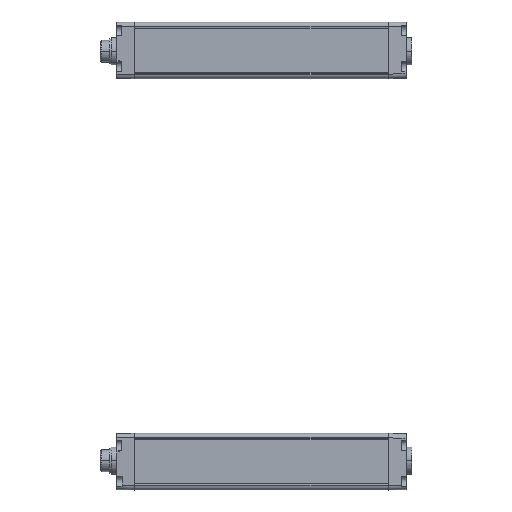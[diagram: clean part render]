
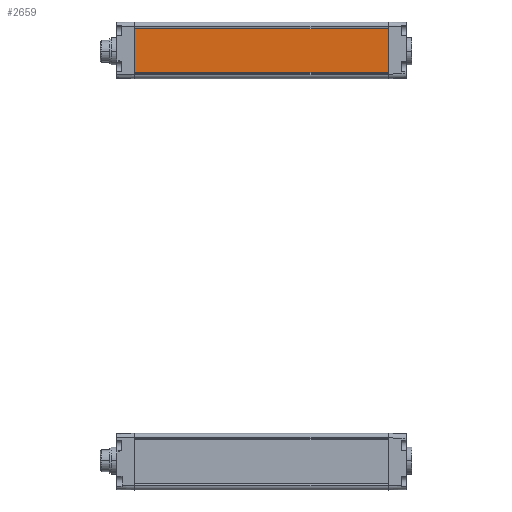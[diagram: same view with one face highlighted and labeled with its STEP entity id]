
A CAD part, front view. The second image highlights one B-rep face of the part: STEP entity #2659.
In plain terms, the highlighted planar face has unit normal (0, -1, 0).
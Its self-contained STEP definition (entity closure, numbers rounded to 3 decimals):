
#154=DIRECTION('',(0.,0.,-1.));
#155=VECTOR('',#154,24.);
#156=CARTESIAN_POINT('',(0.,-15.15,12.));
#157=LINE('',#156,#155);
#412=DIRECTION('',(0.,0.,-1.));
#413=VECTOR('',#412,24.);
#414=CARTESIAN_POINT('',(140.,-15.15,12.));
#415=LINE('',#414,#413);
#880=DIRECTION('',(1.,0.,0.));
#881=VECTOR('',#880,140.);
#882=CARTESIAN_POINT('',(0.,-15.15,12.));
#883=LINE('',#882,#881);
#884=DIRECTION('',(1.,0.,0.));
#885=VECTOR('',#884,140.);
#886=CARTESIAN_POINT('',(0.,-15.15,-12.));
#887=LINE('',#886,#885);
#1298=CARTESIAN_POINT('',(0.,-15.15,12.));
#1299=CARTESIAN_POINT('',(140.,-15.15,12.));
#1300=VERTEX_POINT('',#1298);
#1301=VERTEX_POINT('',#1299);
#1310=CARTESIAN_POINT('',(0.,-15.15,-12.));
#1311=CARTESIAN_POINT('',(140.,-15.15,-12.));
#1312=VERTEX_POINT('',#1310);
#1313=VERTEX_POINT('',#1311);
#2646=CARTESIAN_POINT('',(0.,-15.15,15.65));
#2647=DIRECTION('',(0.,-1.,0.));
#2648=DIRECTION('',(0.,0.,-1.));
#2649=AXIS2_PLACEMENT_3D('',#2646,#2647,#2648);
#2650=PLANE('',#2649);
#2652=ORIENTED_EDGE('',*,*,#2651,.T.);
#2653=ORIENTED_EDGE('',*,*,#1938,.T.);
#2655=ORIENTED_EDGE('',*,*,#2654,.F.);
#2656=ORIENTED_EDGE('',*,*,#1671,.F.);
#2657=EDGE_LOOP('',(#2652,#2653,#2655,#2656));
#2658=FACE_OUTER_BOUND('',#2657,.F.);
#2659=ADVANCED_FACE('',(#2658),#2650,.T.);
#1671=EDGE_CURVE('',#1300,#1312,#157,.T.);
#1938=EDGE_CURVE('',#1301,#1313,#415,.T.);
#2651=EDGE_CURVE('',#1300,#1301,#883,.T.);
#2654=EDGE_CURVE('',#1312,#1313,#887,.T.);
